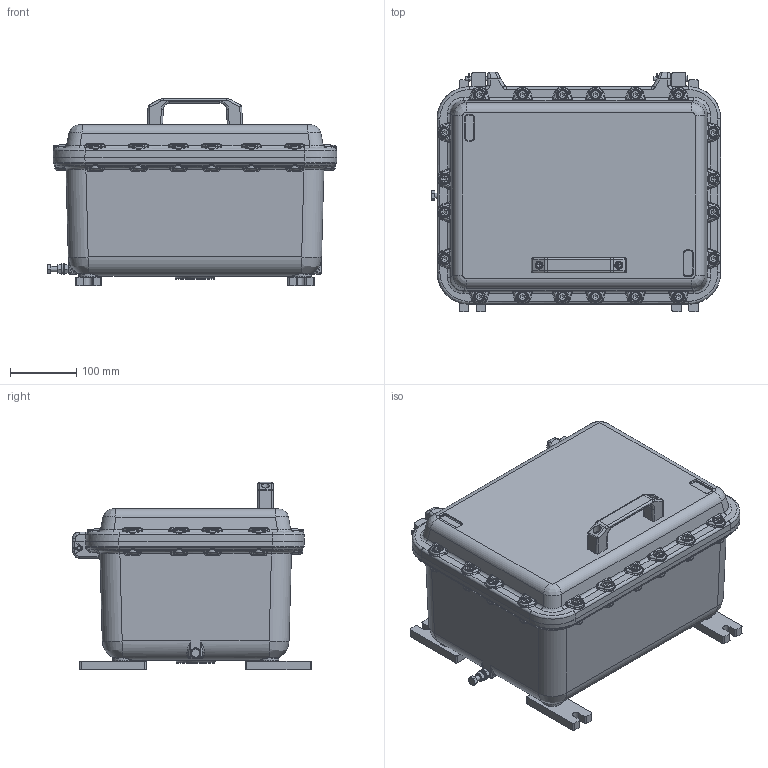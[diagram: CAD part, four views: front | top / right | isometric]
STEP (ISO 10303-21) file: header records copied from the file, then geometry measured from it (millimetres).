
FILE_DESCRIPTION(('STEP AP214'), '1');
FILE_NAME('ﾑﾌﾄ 346400 363 000 _ ﾊﾂﾌﾊ 423222 Exd (ﾃ2, ﾂ04)', '', ('UNSPECIFIED'), ('UNSPECIFIED'), 'ASCON STEP Converter 1.3', 'ASCON Math Kernel', '');
FILE_SCHEMA(('AUTOMOTIVE_DESIGN { 1 0 10303 214 3 1 1}'));
Length unit declared in the file: millimetre
Products named in the file (28): ﾑﾌﾄ 346400 363 000 ﾑﾁ; ﾑﾌﾄ 346400 363 001; ﾑﾌﾄ 346400 363 002; ﾑﾌﾄ 346400 339 003; ﾑﾌﾄ 346400 363 101
Assembly tree (103 placements, depth 2):
  ﾑﾌﾄ 346400 363 000 ﾑﾁ
    ﾑﾌﾄ 346400 363 001
    ﾑﾌﾄ 346400 363 002
    (unnamed)  x8
    (unnamed)  x2
    (unnamed)  x22
    (unnamed)  x2
    (unnamed)
    (unnamed)  x2
    (unnamed)  x2
    (unnamed)
    (unnamed)  x2
    (unnamed)  x20
    (unnamed)  x20
    ﾑﾌﾄ 346400 339 003  x4
    (unnamed)
    (unnamed)
    (unnamed)
    (unnamed)
    (unnamed)
    (unnamed)
    (unnamed)
    (unnamed)
    ﾑﾌﾄ 346400 363 101
    (unnamed)
    (unnamed)
    (unnamed)
    (unnamed)  x3
Bounding box: 435.83 x 360.05 x 282 mm (x, y, z)
Volume: 8514755.9 mm3; surface area: 1332908.2 mm2
Topology: 103 solids, 103 shells, 3390 faces, 8332 edges, 5235 vertices
Faces by surface type: plane 1216, cylinder 855, cone 606, bspline 490, torus 223
Full cylindrical faces by diameter (mm): 3 x2, 4.134 x8, 4.2 x4, 5 x11, 5.5 x16, 6 x2, 6.3 x2, 6.4 x3, 6.647 x23, 7 x4, 8 x21, 8.376 x4, 8.5 x2, 9 x44, 9.2 x7, 10 x12, 10.5 x4, 11 x7, 12 x4, 13 x20, 16 x22, 17 x2, 17.5 x20, 18 x4, 20 x4, 58 x1
Entity records: 169917 total; most frequent: CARTESIAN_POINT 84051, ORIENTED_EDGE 13094, DIRECTION 11926, EDGE_CURVE 6547, AXIS2_PLACEMENT_3D 4607, VERTEX_POINT 4162, EDGE_LOOP 3097, FACE_BOUND 2827
